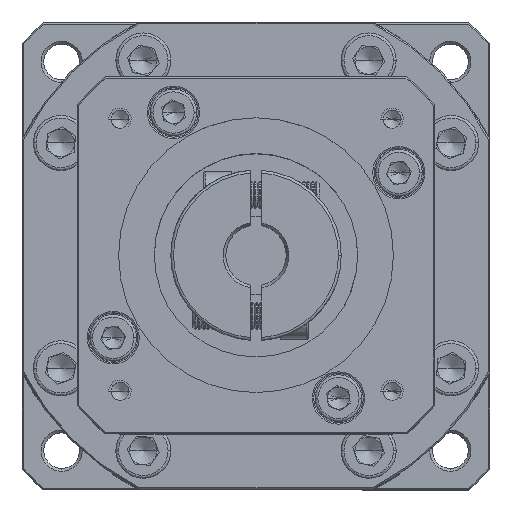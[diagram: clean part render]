
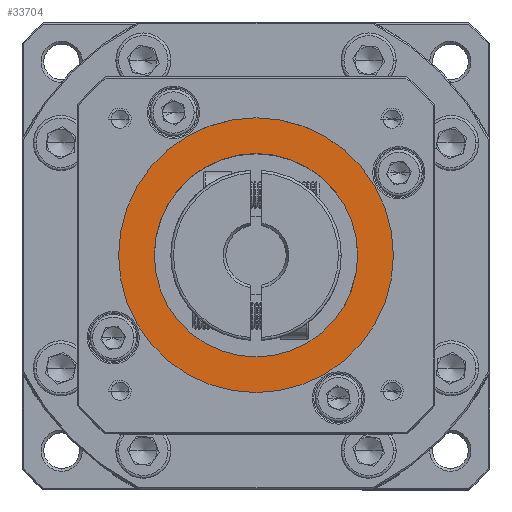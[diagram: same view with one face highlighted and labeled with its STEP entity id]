
A CAD part, top view. The second image highlights one B-rep face of the part: STEP entity #33704.
In plain terms, the highlighted planar face has unit normal (0, 0, 1).
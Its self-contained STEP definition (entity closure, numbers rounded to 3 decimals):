
#741 = AXIS2_PLACEMENT_3D ( 'NONE', #66405, #65989, #26232 ) ;
#1127 = CARTESIAN_POINT ( 'NONE',  ( -74.997, 22.718, 4.774 ) ) ;
#4887 = EDGE_CURVE ( 'NONE', #48480, #111504, #10974, .T. ) ;
#5653 = PLANE ( 'NONE',  #41264 ) ;
#10974 = CIRCLE ( 'NONE', #32729, 25. ) ;
#11303 = DIRECTION ( 'NONE',  ( 1., 0., 0. ) ) ;
#17453 = DIRECTION ( 'NONE',  ( 0., 0., 1. ) ) ;
#19808 = DIRECTION ( 'NONE',  ( 0., 0., -1. ) ) ;
#23415 = DIRECTION ( 'NONE',  ( 0., 0., 1. ) ) ;
#26232 = DIRECTION ( 'NONE',  ( 1., 0., 0. ) ) ;
#28930 = EDGE_CURVE ( 'NONE', #54849, #46208, #123774, .T. ) ;
#32729 = AXIS2_PLACEMENT_3D ( 'NONE', #38825, #17453, #48232 ) ;
#33206 = DIRECTION ( 'NONE',  ( 1., 0., 0. ) ) ;
#33704 = ADVANCED_FACE ( 'NONE', ( #81128, #47422 ), #5653, .T. ) ;
#38825 = CARTESIAN_POINT ( 'NONE',  ( -74.997, 22.718, 4.774 ) ) ;
#41264 = AXIS2_PLACEMENT_3D ( 'NONE', #108017, #97732, #119223 ) ;
#46208 = VERTEX_POINT ( 'NONE', #121277 ) ;
#47422 = FACE_BOUND ( 'NONE', #52147, .T. ) ;
#48232 = DIRECTION ( 'NONE',  ( 1., 0., 0. ) ) ;
#48480 = VERTEX_POINT ( 'NONE', #110417 ) ;
#52147 = EDGE_LOOP ( 'NONE', ( #70562, #91128 ) ) ;
#54849 = VERTEX_POINT ( 'NONE', #119732 ) ;
#62720 = EDGE_CURVE ( 'NONE', #111504, #48480, #96912, .T. ) ;
#65989 = DIRECTION ( 'NONE',  ( 0., 0., -1. ) ) ;
#66405 = CARTESIAN_POINT ( 'NONE',  ( -74.997, 22.718, 4.774 ) ) ;
#68655 = CARTESIAN_POINT ( 'NONE',  ( -49.997, 22.718, 4.774 ) ) ;
#70562 = ORIENTED_EDGE ( 'NONE', *, *, #129514, .T. ) ;
#81128 = FACE_OUTER_BOUND ( 'NONE', #93343, .T. ) ;
#91128 = ORIENTED_EDGE ( 'NONE', *, *, #28930, .T. ) ;
#93343 = EDGE_LOOP ( 'NONE', ( #107152, #111780 ) ) ;
#96912 = CIRCLE ( 'NONE', #102989, 25. ) ;
#97732 = DIRECTION ( 'NONE',  ( 0., 0., 1. ) ) ;
#102989 = AXIS2_PLACEMENT_3D ( 'NONE', #1127, #23415, #33206 ) ;
#107152 = ORIENTED_EDGE ( 'NONE', *, *, #62720, .T. ) ;
#108017 = CARTESIAN_POINT ( 'NONE',  ( -74.997, 22.718, 4.774 ) ) ;
#110417 = CARTESIAN_POINT ( 'NONE',  ( -99.997, 22.718, 4.774 ) ) ;
#111504 = VERTEX_POINT ( 'NONE', #68655 ) ;
#111780 = ORIENTED_EDGE ( 'NONE', *, *, #4887, .T. ) ;
#117714 = AXIS2_PLACEMENT_3D ( 'NONE', #132095, #19808, #11303 ) ;
#119223 = DIRECTION ( 'NONE',  ( 1., 0., 0. ) ) ;
#119732 = CARTESIAN_POINT ( 'NONE',  ( -93.497, 22.718, 4.774 ) ) ;
#121277 = CARTESIAN_POINT ( 'NONE',  ( -56.497, 22.718, 4.774 ) ) ;
#123774 = CIRCLE ( 'NONE', #741, 18.5 ) ;
#128811 = CIRCLE ( 'NONE', #117714, 18.5 ) ;
#129514 = EDGE_CURVE ( 'NONE', #46208, #54849, #128811, .T. ) ;
#132095 = CARTESIAN_POINT ( 'NONE',  ( -74.997, 22.718, 4.774 ) ) ;
